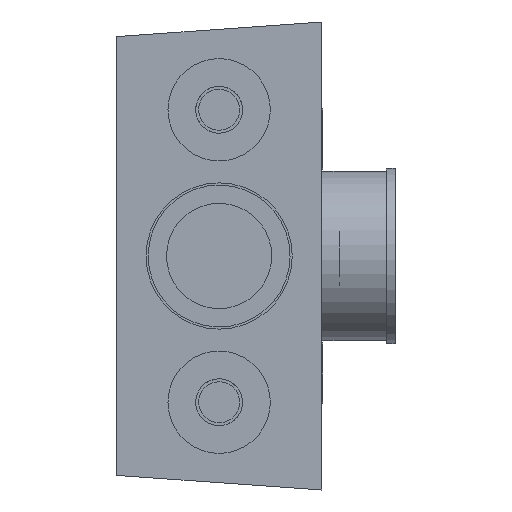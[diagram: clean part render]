
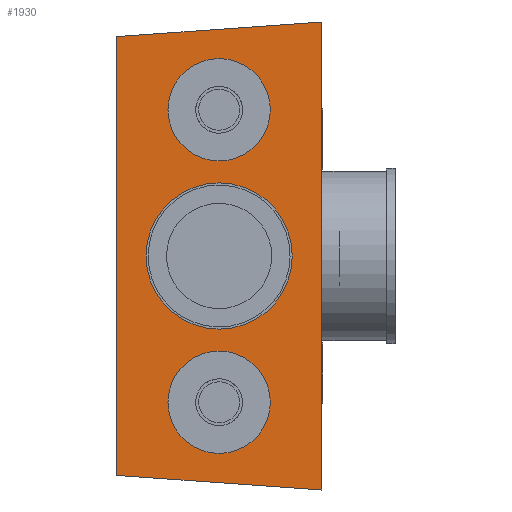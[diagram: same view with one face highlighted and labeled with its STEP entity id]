
A CAD part, front view. The second image highlights one B-rep face of the part: STEP entity #1930.
In plain terms, the highlighted planar face has unit normal (0, -1, 0).
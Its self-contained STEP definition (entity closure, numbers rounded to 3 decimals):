
#125=FACE_BOUND('',#344,.T.);
#126=FACE_BOUND('',#345,.T.);
#127=FACE_BOUND('',#346,.T.);
#175=CIRCLE('',#2178,25.);
#176=CIRCLE('',#2179,17.5);
#177=CIRCLE('',#2180,17.5);
#219=FACE_OUTER_BOUND('',#343,.T.);
#343=EDGE_LOOP('',(#1335,#1336,#1337,#1338));
#344=EDGE_LOOP('',(#1339));
#345=EDGE_LOOP('',(#1340));
#346=EDGE_LOOP('',(#1341));
#515=LINE('',#2842,#699);
#519=LINE('',#2851,#703);
#523=LINE('',#2858,#707);
#524=LINE('',#2859,#708);
#699=VECTOR('',#2339,10.);
#703=VECTOR('',#2345,10.);
#707=VECTOR('',#2351,10.);
#708=VECTOR('',#2352,10.);
#883=VERTEX_POINT('',#2840);
#884=VERTEX_POINT('',#2841);
#887=VERTEX_POINT('',#2849);
#888=VERTEX_POINT('',#2850);
#891=VERTEX_POINT('',#2860);
#892=VERTEX_POINT('',#2862);
#893=VERTEX_POINT('',#2864);
#1069=EDGE_CURVE('',#883,#884,#515,.T.);
#1073=EDGE_CURVE('',#887,#888,#519,.T.);
#1077=EDGE_CURVE('',#887,#884,#523,.T.);
#1078=EDGE_CURVE('',#883,#888,#524,.T.);
#1079=EDGE_CURVE('',#891,#891,#175,.T.);
#1080=EDGE_CURVE('',#892,#892,#176,.T.);
#1081=EDGE_CURVE('',#893,#893,#177,.T.);
#1335=ORIENTED_EDGE('',*,*,#1069,.T.);
#1336=ORIENTED_EDGE('',*,*,#1077,.F.);
#1337=ORIENTED_EDGE('',*,*,#1073,.T.);
#1338=ORIENTED_EDGE('',*,*,#1078,.F.);
#1339=ORIENTED_EDGE('',*,*,#1079,.T.);
#1340=ORIENTED_EDGE('',*,*,#1080,.T.);
#1341=ORIENTED_EDGE('',*,*,#1081,.T.);
#1845=PLANE('',#2177);
#1930=ADVANCED_FACE('',(#219,#125,#126,#127),#1845,.T.);
#2177=AXIS2_PLACEMENT_3D('',#2857,#2349,#2350);
#2178=AXIS2_PLACEMENT_3D('',#2861,#2353,#2354);
#2179=AXIS2_PLACEMENT_3D('',#2863,#2355,#2356);
#2180=AXIS2_PLACEMENT_3D('',#2865,#2357,#2358);
#2339=DIRECTION('',(-0.997,0.,-0.071));
#2345=DIRECTION('',(0.997,0.,-0.071));
#2349=DIRECTION('center_axis',(0.,-1.,0.));
#2350=DIRECTION('ref_axis',(0.,0.,-1.));
#2351=DIRECTION('',(0.,0.,1.));
#2352=DIRECTION('',(0.,0.,-1.));
#2353=DIRECTION('center_axis',(0.,1.,0.));
#2354=DIRECTION('ref_axis',(-1.,0.,0.));
#2355=DIRECTION('center_axis',(0.,1.,0.));
#2356=DIRECTION('ref_axis',(-1.,0.,0.));
#2357=DIRECTION('center_axis',(0.,1.,0.));
#2358=DIRECTION('ref_axis',(-1.,0.,0.));
#2840=CARTESIAN_POINT('',(70.,0.,0.));
#2841=CARTESIAN_POINT('',(0.,0.,-5.));
#2842=CARTESIAN_POINT('',(0.178,0.,-4.987));
#2849=CARTESIAN_POINT('',(0.,0.,-155.));
#2850=CARTESIAN_POINT('',(70.,0.,-160.));
#2851=CARTESIAN_POINT('',(29.492,0.,-157.107));
#2857=CARTESIAN_POINT('Origin',(0.,0.,0.));
#2858=CARTESIAN_POINT('',(0.,0.,-160.));
#2859=CARTESIAN_POINT('',(70.,0.,-160.));
#2860=CARTESIAN_POINT('',(60.,0.,-80.));
#2861=CARTESIAN_POINT('Origin',(35.,0.,-80.));
#2862=CARTESIAN_POINT('',(52.5,0.,-130.));
#2863=CARTESIAN_POINT('Origin',(35.,0.,-130.));
#2864=CARTESIAN_POINT('',(52.5,0.,-30.));
#2865=CARTESIAN_POINT('Origin',(35.,0.,-30.));
